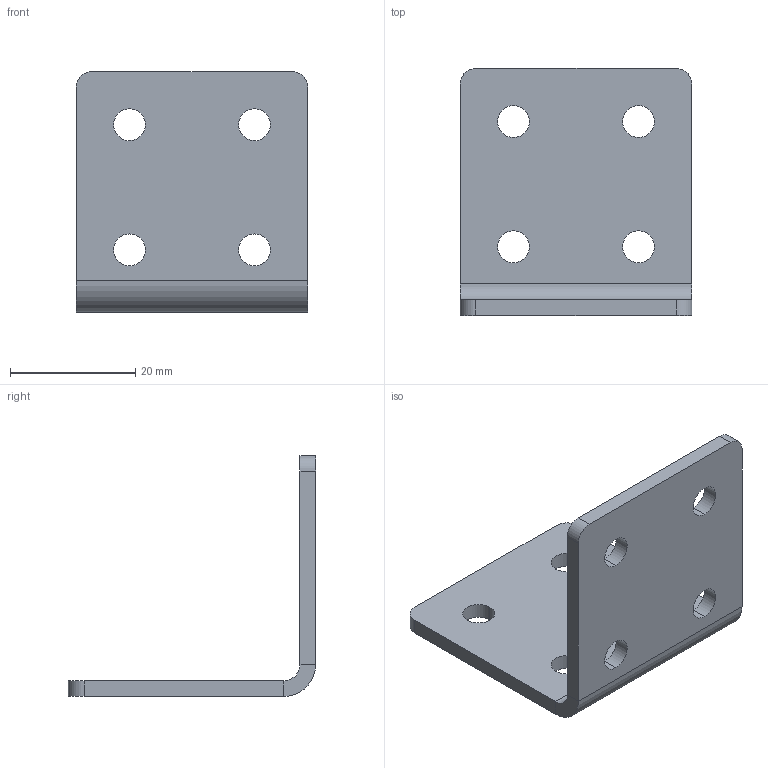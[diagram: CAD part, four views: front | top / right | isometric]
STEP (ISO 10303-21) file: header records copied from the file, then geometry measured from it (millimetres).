
FILE_DESCRIPTION (( 'STEP AP214' ), '1' );
FILE_NAME ('8003s.STEP', '2015-03-29T06:36:17', ( '' ), ( '' ), 'SwSTEP 2.0', 'SolidWorks 2014', '' );
FILE_SCHEMA (( 'AUTOMOTIVE_DESIGN' ));
Length unit declared in the file: millimetre
Products named in the file (1): 8003s
Bounding box: 37 x 39.5 x 38.5 mm (x, y, z)
Volume: 6408.9 mm3; surface area: 5991.1 mm2
Topology: 1 solids, 1 shells, 34 faces, 88 edges, 56 vertices
Faces by surface type: cylinder 22, plane 12
Entity records: 1118 total; most frequent: DIRECTION 202, CARTESIAN_POINT 179, ORIENTED_EDGE 176, EDGE_CURVE 88, AXIS2_PLACEMENT_3D 79, VERTEX_POINT 56, EDGE_LOOP 50, LINE 44
